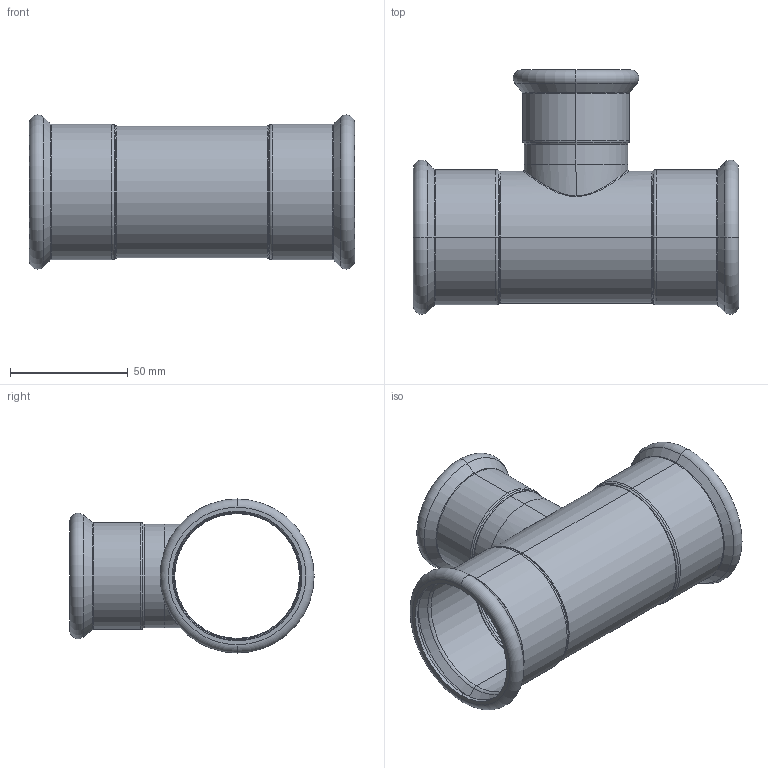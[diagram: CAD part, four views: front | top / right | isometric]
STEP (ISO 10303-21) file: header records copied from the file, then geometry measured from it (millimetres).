
FILE_DESCRIPTION (( 'STEP AP203' ), '1' );
FILE_NAME ('GDA5211.STEP', '2019-01-12T06:14:39', ( '' ), ( '' ), 'SwSTEP 2.0', 'SolidWorks 2015', '' );
FILE_SCHEMA (( 'CONFIG_CONTROL_DESIGN' ));
Length unit declared in the file: millimetre
Products named in the file (3): T-ｉ-01-42; GDA5211; T(R)-¢ñ-54¡Á42''
Assembly tree (2 placements, depth 2):
  GDA5211
    T(R)-¢ñ-54¡Á42''
    T-ｉ-01-42
Bounding box: 138 x 103.69 x 65.39 mm (x, y, z)
Volume: 47257.2 mm3; surface area: 64139.5 mm2
Topology: 2 solids, 2 shells, 114 faces, 234 edges, 128 vertices
Faces by surface type: torus 48, cylinder 30, cone 24, plane 8, bspline 4
Entity records: 4533 total; most frequent: CARTESIAN_POINT 1743, DIRECTION 620, ORIENTED_EDGE 468, AXIS2_PLACEMENT_3D 283, EDGE_CURVE 234, CIRCLE 168, VERTEX_POINT 128, EDGE_LOOP 124
